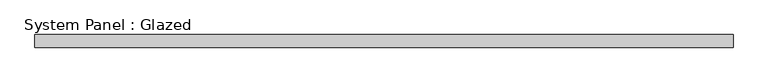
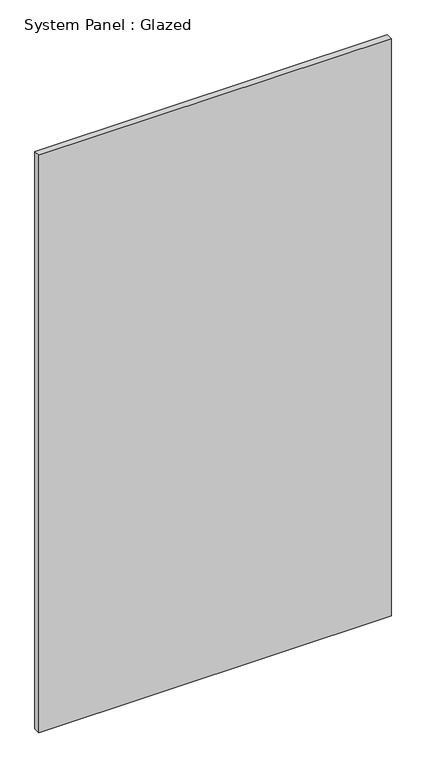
"""IFC4 building model written with IfcOpenShell, lengths in millimetres: plate geometry, System Panel : Glazed."""

from ifc_helpers import new_model, si_unit, origin, origin_with_axes, place, context, project, spatial, polyline, outline, extrude, source, transform, mapped, element, save


def system_panel_glazed_0dd8bcab(model_context):
    return source(origin(), model_context, "Body", "SweptSolid", [
        extrude(outline(polyline([(670.5484529, 24.5), (-670.5484529, 24.5), (-670.5484529, 49.5), (670.5484529, 49.5), (670.5484529, 24.5)])), origin_with_axes(), (0.0, 0.0, 1.0), 2325.0),
    ])


if __name__ == "__main__":
    model = new_model("IFC4")
    model_context = context("Model", 3, world=origin())
    ifc_project = project(units=[si_unit("LENGTHUNIT", "METRE", prefix="MILLI")], contexts=[model_context])
    site = spatial("IfcSite", under=ifc_project)
    building = spatial("IfcBuilding", under=site)
    placement = place(None, origin())
    system_panel_glazed_shape = system_panel_glazed_0dd8bcab(model_context)
    element("IfcPlate", 1, ObjectType="System Panel : Glazed", at=placement, inside=building, context=model_context, shape_type="MappedRepresentation", body=[
        mapped(system_panel_glazed_shape, transform((0.0, 0.0, 0.0), x_axis=(1.0, 0.0, 0.0), y_axis=(0.0, 1.0, 0.0), z_axis=(0.0, 0.0, 1.0))),
    ])
    save(model, "model.ifc")
